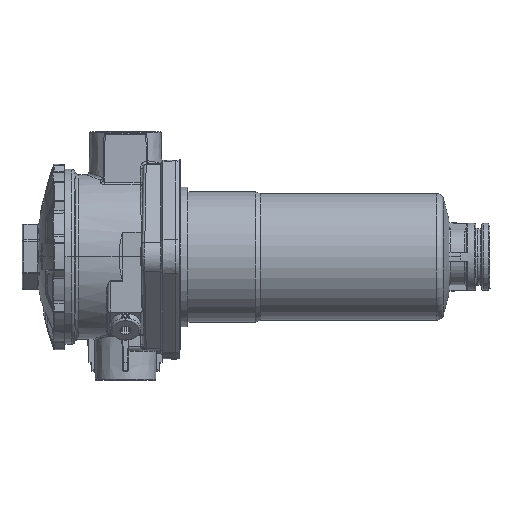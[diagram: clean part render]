
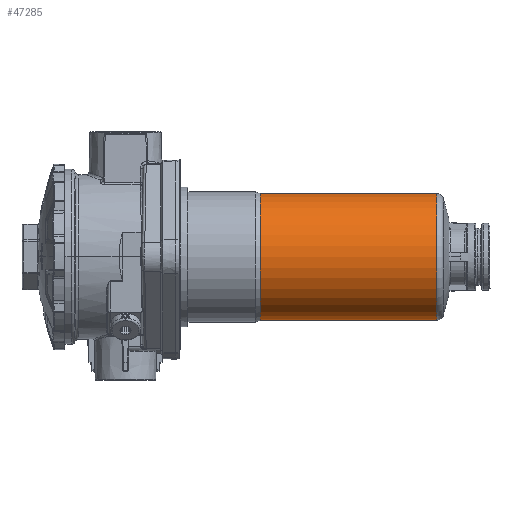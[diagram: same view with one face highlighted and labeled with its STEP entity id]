
A CAD part, top view. The second image highlights one B-rep face of the part: STEP entity #47285.
In plain terms, the highlighted cylindrical face has radius 35.5 mm (diameter 71 mm), a partial arc.
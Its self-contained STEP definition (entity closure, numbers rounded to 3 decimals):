
#8312=CARTESIAN_POINT('',(109.347,0.,0.));
#8313=DIRECTION('',(1.,0.,0.));
#8314=DIRECTION('',(0.,1.,0.));
#8315=AXIS2_PLACEMENT_3D('',#8312,#8313,#8314);
#8327=DIRECTION('',(-1.,0.,0.));
#8328=VECTOR('',#8327,98.798);
#8329=CARTESIAN_POINT('',(208.145,-35.5,
0.));
#8330=LINE('',#8329,#8328);
#8334=DIRECTION('',(-1.,0.,0.));
#8335=VECTOR('',#8334,98.798);
#8336=CARTESIAN_POINT('',(208.145,35.5,
-0.004));
#8337=LINE('',#8336,#8335);
#8373=CARTESIAN_POINT('',(208.145,0.,
0.));
#8374=DIRECTION('',(-1.,0.,0.));
#8375=DIRECTION('',(0.,-1.,0.));
#8376=AXIS2_PLACEMENT_3D('',#8373,#8374,#8375);
#32023=CARTESIAN_POINT('',(109.347,-35.5,0.));
#32024=VERTEX_POINT('',#32023);
#32025=CARTESIAN_POINT('',(109.347,35.5,0.));
#32026=VERTEX_POINT('',#32025);
#32027=CARTESIAN_POINT('',(208.145,35.5,
-0.004));
#32028=VERTEX_POINT('',#32027);
#32029=CARTESIAN_POINT('',(208.145,-35.5,
0.));
#32030=VERTEX_POINT('',#32029);
#47271=CARTESIAN_POINT('',(160.281,0.,0.));
#47272=DIRECTION('',(1.,0.,0.));
#47273=DIRECTION('',(0.,-1.,0.));
#47274=AXIS2_PLACEMENT_3D('',#47271,#47272,#47273);
#47275=CYLINDRICAL_SURFACE('',#47274,35.5);
#47276=ORIENTED_EDGE('',*,*,#47258,.F.);
#47278=ORIENTED_EDGE('',*,*,#47277,.F.);
#47280=ORIENTED_EDGE('',*,*,#47279,.F.);
#47282=ORIENTED_EDGE('',*,*,#47281,.T.);
#47283=EDGE_LOOP('',(#47276,#47278,#47280,#47282));
#47284=FACE_OUTER_BOUND('',#47283,.F.);
#8316=CIRCLE('',#8315,35.5);
#8377=CIRCLE('',#8376,35.5);
#47258=EDGE_CURVE('',#32026,#32024,#8316,.T.);
#47277=EDGE_CURVE('',#32028,#32026,#8337,.T.);
#47279=EDGE_CURVE('',#32030,#32028,#8377,.T.);
#47281=EDGE_CURVE('',#32030,#32024,#8330,.T.);
#47285=ADVANCED_FACE('',(#47284),#47275,.T.);
